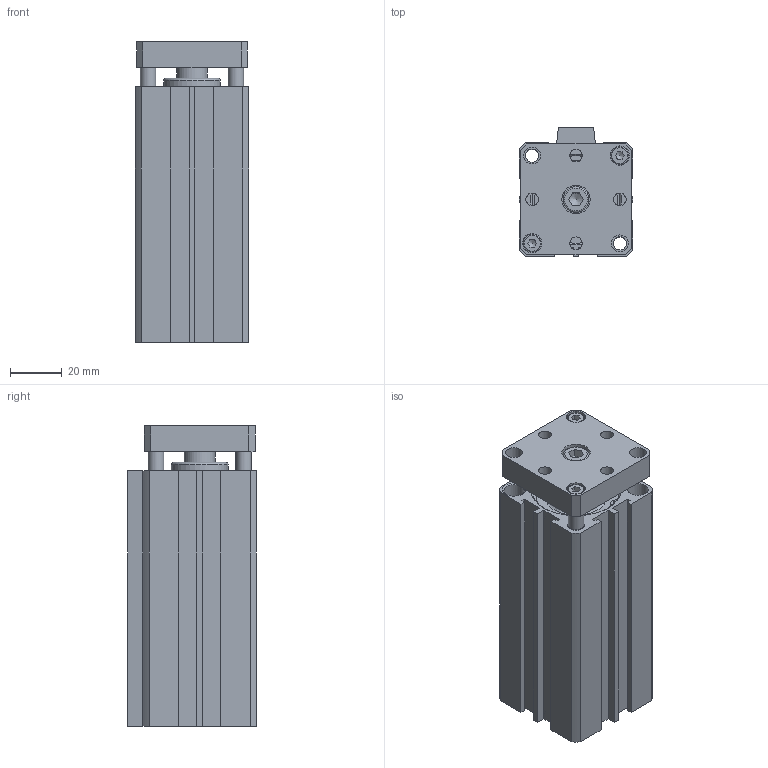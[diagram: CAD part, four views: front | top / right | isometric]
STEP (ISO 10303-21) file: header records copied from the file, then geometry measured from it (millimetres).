
FILE_DESCRIPTION((''),'2;1');
FILE_NAME('I:\3D電子目錄\氣缸\JTD\JTD\JTD32\JTD32x75.stp','2007-08-09T20:30:30',('Administrator'),(''),'Autodesk Inventor 11','Autodesk Inventor 11','');
FILE_SCHEMA(('AUTOMOTIVE_DESIGN { 1 0 10303 214 1 1 1 1 }'));
Length unit declared in the file: millimetre
Products named in the file (5): JTD32; R 形環 35; ISO 4762 M6 x 10; ISO 4762 M4 x 10
Assembly tree (6 placements, depth 2):
  JTD32
    JTD32
    R 形環 35  x2
    ISO 4762 M6 x 10
    ISO 4762 M4 x 10  x2
Bounding box: 44 x 50 x 116.5 mm (x, y, z)
Volume: 183401.2 mm3; surface area: 48571.2 mm2
Topology: 6 solids, 6 shells, 201 faces, 465 edges, 305 vertices
Faces by surface type: plane 114, cylinder 51, bspline 19, cone 12, torus 5
Full cylindrical faces by diameter (mm): 1.9 x4, 2.2 x2, 4 x2, 5.1 x2, 6 x3, 6.5 x4, 7 x2, 8 x4, 10 x1, 12 x1, 22 x1, 23 x1, 34 x4, 36 x2
Entity records: 5049 total; most frequent: CARTESIAN_POINT 1119, DIRECTION 784, ORIENTED_EDGE 684, EDGE_CURVE 342, AXIS2_PLACEMENT_3D 287, EDGE_LOOP 284, VERTEX_POINT 260, VECTOR 210
